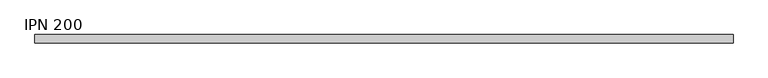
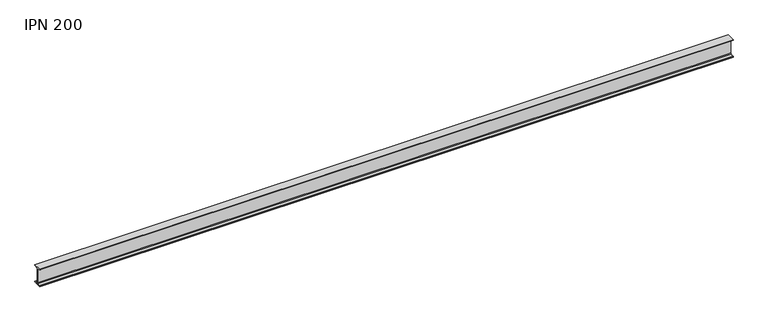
"""IFC4 building model written with IfcOpenShell, lengths in millimetres: beam geometry, IPN - Secciones en I con alas cónicas : IPN 200."""

from ifc_helpers import new_model, si_unit, point, frame, frame_2d, origin, place, context, project, spatial, polyline, circle_curve, trimmed, segment, composite_curve, outline, extrude, source, transform, mapped, element, save


def ipn_200_73b08ae7(model_context):
    return source(origin(), model_context, "Body", "SweptSolid", [
        extrude(outline(composite_curve([segment(polyline([(45.0, 100.0), (45.0, 95.763886)]), True, "CONTINUOUS"), segment(trimmed(circle_curve(frame_2d((40.5, 95.763886)), 4.5), [point((45.0, 95.763886))], [point((41.1239153, 91.3073481))], False, "CARTESIAN"), True, "CONTINUOUS"), segment(polyline([(41.1239153, 91.3073481), (10.2101412, 86.9794198)]), True, "CONTINUOUS"), segment(trimmed(circle_curve(frame_2d((11.25, 79.5518567)), 7.5), [point((10.2101412, 86.9794198))], [point((3.75, 79.5518567))], True, "CARTESIAN"), True, "CONTINUOUS"), segment(polyline([(3.75, 79.5518567), (3.75, -79.5518567)]), True, "CONTINUOUS"), segment(trimmed(circle_curve(frame_2d((11.25, -79.5518567)), 7.5), [point((3.75, -79.5518567))], [point((10.2101412, -86.9794198))], True, "CARTESIAN"), True, "CONTINUOUS"), segment(polyline([(10.2101412, -86.9794198), (41.1239153, -91.3073481)]), True, "CONTINUOUS"), segment(trimmed(circle_curve(frame_2d((40.5, -95.763886)), 4.5), [point((41.1239153, -91.3073481))], [point((45.0, -95.763886))], False, "CARTESIAN"), True, "CONTINUOUS"), segment(polyline([(45.0, -95.763886), (45.0, -100.0), (-45.0, -100.0), (-45.0, -95.763886)]), True, "CONTINUOUS"), segment(trimmed(circle_curve(frame_2d((-40.5, -95.763886)), 4.5), [point((-45.0, -95.763886))], [point((-41.1239153, -91.3073481))], False, "CARTESIAN"), True, "CONTINUOUS"), segment(polyline([(-41.1239153, -91.3073481), (-10.2101412, -86.9794198)]), True, "CONTINUOUS"), segment(trimmed(circle_curve(frame_2d((-11.25, -79.5518567)), 7.5), [point((-10.2101412, -86.9794198))], [point((-3.75, -79.5518567))], True, "CARTESIAN"), True, "CONTINUOUS"), segment(polyline([(-3.75, -79.5518567), (-3.75, 79.5518567)]), True, "CONTINUOUS"), segment(trimmed(circle_curve(frame_2d((-11.25, 79.5518567)), 7.5), [point((-3.75, 79.5518567))], [point((-10.2101412, 86.9794198))], True, "CARTESIAN"), True, "CONTINUOUS"), segment(polyline([(-10.2101412, 86.9794198), (-41.1239153, 91.3073481)]), True, "CONTINUOUS"), segment(trimmed(circle_curve(frame_2d((-40.5, 95.763886)), 4.5), [point((-41.1239153, 91.3073481))], [point((-45.0, 95.763886))], False, "CARTESIAN"), True, "CONTINUOUS"), segment(polyline([(-45.0, 95.763886), (-45.0, 100.0), (45.0, 100.0)]), True, "CONTINUOUS")], self_intersect=False)), frame((-3482.5, 0.0, 0.0), z_axis=(1.0, 0.0, 0.0), x_axis=(0.0, 1.0, 0.0)), (0.0, 0.0, 1.0), 7521.9743507),
    ])


if __name__ == "__main__":
    model = new_model("IFC4")
    model_context = context("Model", 3, world=origin())
    ifc_project = project(units=[si_unit("LENGTHUNIT", "METRE", prefix="MILLI")], contexts=[model_context])
    site = spatial("IfcSite", under=ifc_project)
    building = spatial("IfcBuilding", under=site)
    placement = place(None, origin())
    ipn_200_shape = ipn_200_73b08ae7(model_context)
    element("IfcBeam", 1, ObjectType="IPN - Secciones en I con alas cónicas : IPN 200", at=placement, inside=building, context=model_context, shape_type="MappedRepresentation", body=[
        mapped(ipn_200_shape, transform((0.0, 0.0, 0.0), x_axis=(1.0, 0.0, 0.0), y_axis=(0.0, 1.0, 0.0), z_axis=(0.0, 0.0, 1.0))),
    ])
    save(model, "model.ifc")
